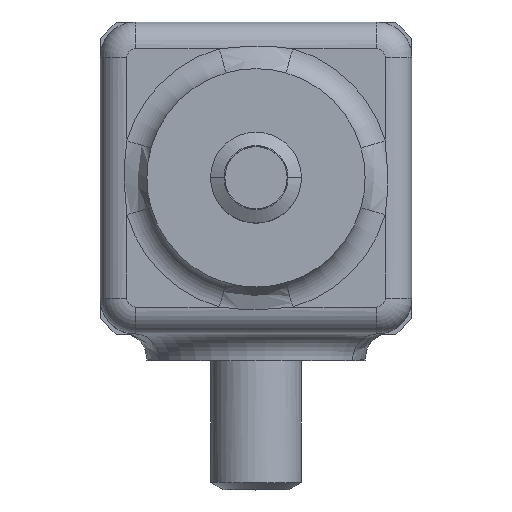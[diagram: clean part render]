
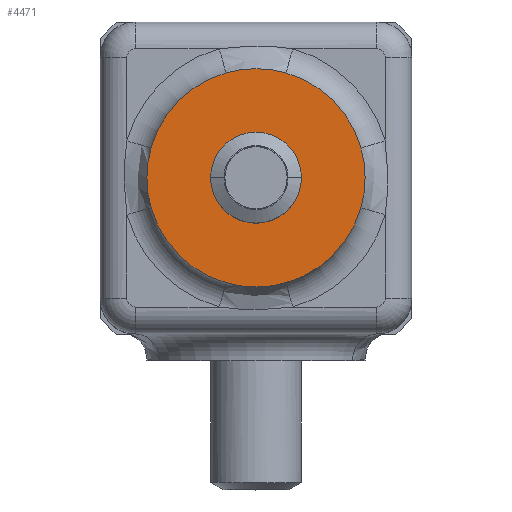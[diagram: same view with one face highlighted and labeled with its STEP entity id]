
A CAD part, top view. The second image highlights one B-rep face of the part: STEP entity #4471.
In plain terms, the highlighted planar face has unit normal (0, 0, 1).
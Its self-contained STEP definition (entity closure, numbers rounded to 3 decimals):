
#656 = EDGE_CURVE ( 'NONE', #3712, #3919, #7062, .T. ) ;
#2611 = VERTEX_POINT ( 'NONE', #3600 ) ;
#2685 = CIRCLE ( 'NONE', #2686, 12.25 ) ;
#2686 = AXIS2_PLACEMENT_3D ( 'NONE', #2687, #2688, #2689 ) ;
#2687 = CARTESIAN_POINT ( 'NONE',  ( 0., 0., 35. ) ) ;
#2688 = DIRECTION ( 'NONE',  ( 0., 0., 1. ) ) ;
#2689 = DIRECTION ( 'NONE',  ( 1., 0., 0. ) ) ;
#2817 = EDGE_CURVE ( 'NONE', #3800, #2611, #3738, .T. ) ;
#3158 = ORIENTED_EDGE ( 'NONE', *, *, #2817, .T. ) ;
#3600 = CARTESIAN_POINT ( 'NONE',  ( 3.36, -11.78, 35. ) ) ;
#3659 = CIRCLE ( 'NONE', #3660, 12.25 ) ;
#3660 = AXIS2_PLACEMENT_3D ( 'NONE', #3661, #3662, #3663 ) ;
#3661 = CARTESIAN_POINT ( 'NONE',  ( 0., 0., 35. ) ) ;
#3662 = DIRECTION ( 'NONE',  ( 0., 0., 1. ) ) ;
#3663 = DIRECTION ( 'NONE',  ( 1., 0., 0. ) ) ;
#3704 = CIRCLE ( 'NONE', #3705, 12.25 ) ;
#3705 = AXIS2_PLACEMENT_3D ( 'NONE', #3706, #3707, #3708 ) ;
#3706 = CARTESIAN_POINT ( 'NONE',  ( 0., 0., 35. ) ) ;
#3707 = DIRECTION ( 'NONE',  ( 0., 0., 1. ) ) ;
#3708 = DIRECTION ( 'NONE',  ( 1., 0., 0. ) ) ;
#3712 = VERTEX_POINT ( 'NONE', #4515 ) ;
#3738 = CIRCLE ( 'NONE', #3739, 12.25 ) ;
#3739 = AXIS2_PLACEMENT_3D ( 'NONE', #3740, #3741, #3742 ) ;
#3740 = CARTESIAN_POINT ( 'NONE',  ( 0., 0., 35. ) ) ;
#3741 = DIRECTION ( 'NONE',  ( 0., 0., 1. ) ) ;
#3742 = DIRECTION ( 'NONE',  ( 1., 0., 0. ) ) ;
#3800 = VERTEX_POINT ( 'NONE', #4539 ) ;
#3919 = VERTEX_POINT ( 'NONE', #4665 ) ;
#4237 = CARTESIAN_POINT ( 'NONE',  ( 3.36, 11.78, 35. ) ) ;
#4295 = CARTESIAN_POINT ( 'NONE',  ( -11.78, -3.36, 35. ) ) ;
#4471 = ADVANCED_FACE ( 'NONE', ( #5820, #5821 ), #5822, .T. ) ;
#4515 = CARTESIAN_POINT ( 'NONE',  ( -5.1, 0., 35. ) ) ;
#4516 = CARTESIAN_POINT ( 'NONE',  ( 11.78, 3.36, 35. ) ) ;
#4524 = CIRCLE ( 'NONE', #4525, 12.25 ) ;
#4525 = AXIS2_PLACEMENT_3D ( 'NONE', #4526, #4527, #4528 ) ;
#4526 = CARTESIAN_POINT ( 'NONE',  ( 0., 0., 35. ) ) ;
#4527 = DIRECTION ( 'NONE',  ( 0., 0., 1. ) ) ;
#4528 = DIRECTION ( 'NONE',  ( 1., 0., 0. ) ) ;
#4539 = CARTESIAN_POINT ( 'NONE',  ( -3.36, -11.78, 35. ) ) ;
#4665 = CARTESIAN_POINT ( 'NONE',  ( 5.1, 0., 35. ) ) ;
#4666 = CIRCLE ( 'NONE', #4667, 12.25 ) ;
#4667 = AXIS2_PLACEMENT_3D ( 'NONE', #4668, #4669, #4670 ) ;
#4668 = CARTESIAN_POINT ( 'NONE',  ( 0., 0., 35. ) ) ;
#4669 = DIRECTION ( 'NONE',  ( 0., 0., 1. ) ) ;
#4670 = DIRECTION ( 'NONE',  ( 1., 0., 0. ) ) ;
#4799 = ORIENTED_EDGE ( 'NONE', *, *, #5539, .T. ) ;
#5107 = VERTEX_POINT ( 'NONE', #7672 ) ;
#5118 = EDGE_CURVE ( 'NONE', #2611, #5107, #8231, .T. ) ;
#5142 = ORIENTED_EDGE ( 'NONE', *, *, #5118, .T. ) ;
#5222 = EDGE_CURVE ( 'NONE', #5287, #3800, #3704, .T. ) ;
#5247 = ORIENTED_EDGE ( 'NONE', *, *, #5222, .T. ) ;
#5287 = VERTEX_POINT ( 'NONE', #4295 ) ;
#5299 = EDGE_CURVE ( 'NONE', #5362, #5287, #4524, .T. ) ;
#5323 = ORIENTED_EDGE ( 'NONE', *, *, #5299, .T. ) ;
#5362 = VERTEX_POINT ( 'NONE', #5901 ) ;
#5380 = EDGE_CURVE ( 'NONE', #5448, #5362, #6907, .T. ) ;
#5406 = ORIENTED_EDGE ( 'NONE', *, *, #5380, .T. ) ;
#5428 = EDGE_CURVE ( 'NONE', #3919, #3712, #8176, .T. ) ;
#5448 = VERTEX_POINT ( 'NONE', #8292 ) ;
#5539 = EDGE_CURVE ( 'NONE', #5107, #5619, #2685, .T. ) ;
#5556 = EDGE_CURVE ( 'NONE', #5608, #5448, #3659, .T. ) ;
#5578 = ORIENTED_EDGE ( 'NONE', *, *, #5556, .T. ) ;
#5608 = VERTEX_POINT ( 'NONE', #4237 ) ;
#5619 = VERTEX_POINT ( 'NONE', #4516 ) ;
#5630 = EDGE_CURVE ( 'NONE', #5619, #5608, #4666, .T. ) ;
#5651 = ORIENTED_EDGE ( 'NONE', *, *, #5630, .T. ) ;
#5684 = EDGE_LOOP ( 'NONE', ( #5651, #5578, #5406, #5323, #5247, #3158, #5142, #4799 ) ) ;
#5698 = ORIENTED_EDGE ( 'NONE', *, *, #656, .F. ) ;
#5724 = ORIENTED_EDGE ( 'NONE', *, *, #5428, .F. ) ;
#5757 = EDGE_LOOP ( 'NONE', ( #5724, #5698 ) ) ;
#5820 = FACE_BOUND ( 'NONE', #5757, .T. ) ;
#5821 = FACE_OUTER_BOUND ( 'NONE', #5684, .T. ) ;
#5822 = PLANE ( 'NONE',  #5823 ) ;
#5823 = AXIS2_PLACEMENT_3D ( 'NONE', #5824, #5825, #5826 ) ;
#5824 = CARTESIAN_POINT ( 'NONE',  ( 0., 0., 35. ) ) ;
#5825 = DIRECTION ( 'NONE',  ( 0., 0., 1. ) ) ;
#5826 = DIRECTION ( 'NONE',  ( 1., 0., 0. ) ) ;
#5901 = CARTESIAN_POINT ( 'NONE',  ( -11.78, 3.36, 35. ) ) ;
#6907 = CIRCLE ( 'NONE', #6908, 12.25 ) ;
#6908 = AXIS2_PLACEMENT_3D ( 'NONE', #6909, #6910, #6911 ) ;
#6909 = CARTESIAN_POINT ( 'NONE',  ( 0., 0., 35. ) ) ;
#6910 = DIRECTION ( 'NONE',  ( 0., 0., 1. ) ) ;
#6911 = DIRECTION ( 'NONE',  ( 1., 0., 0. ) ) ;
#7062 = CIRCLE ( 'NONE', #7063, 5.1 ) ;
#7063 = AXIS2_PLACEMENT_3D ( 'NONE', #7064, #7065, #7066 ) ;
#7064 = CARTESIAN_POINT ( 'NONE',  ( 0., 0., 35. ) ) ;
#7065 = DIRECTION ( 'NONE',  ( 0., 0., 1. ) ) ;
#7066 = DIRECTION ( 'NONE',  ( 1., 0., 0. ) ) ;
#7672 = CARTESIAN_POINT ( 'NONE',  ( 11.78, -3.36, 35. ) ) ;
#8176 = CIRCLE ( 'NONE', #8177, 5.1 ) ;
#8177 = AXIS2_PLACEMENT_3D ( 'NONE', #8178, #8179, #8180 ) ;
#8178 = CARTESIAN_POINT ( 'NONE',  ( 0., 0., 35. ) ) ;
#8179 = DIRECTION ( 'NONE',  ( 0., 0., 1. ) ) ;
#8180 = DIRECTION ( 'NONE',  ( 1., 0., 0. ) ) ;
#8231 = CIRCLE ( 'NONE', #8232, 12.25 ) ;
#8232 = AXIS2_PLACEMENT_3D ( 'NONE', #8233, #8234, #8235 ) ;
#8233 = CARTESIAN_POINT ( 'NONE',  ( 0., 0., 35. ) ) ;
#8234 = DIRECTION ( 'NONE',  ( 0., 0., 1. ) ) ;
#8235 = DIRECTION ( 'NONE',  ( 1., 0., 0. ) ) ;
#8292 = CARTESIAN_POINT ( 'NONE',  ( -3.36, 11.78, 35. ) ) ;
